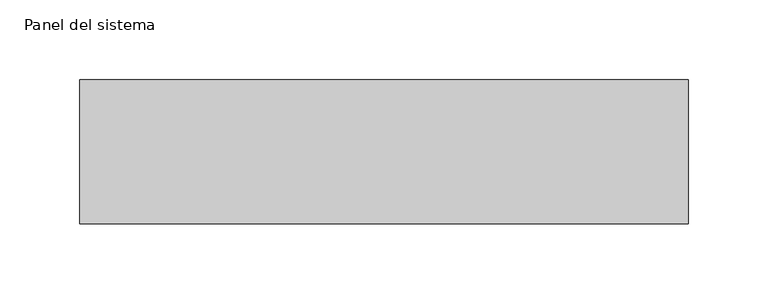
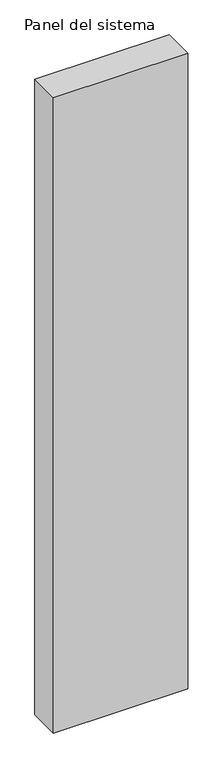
"""IFC4 building model written with IfcOpenShell, lengths in millimetres: plate geometry, Panel del sistema : HIANSA - CHAPA PERFILADA CUBIERTA - BANDEJA 90.380 Vert."""

from ifc_helpers import new_model, si_unit, origin, origin_with_axes, place, context, project, spatial, polyline, outline, extrude, source, transform, mapped, element, save


def panel_del_sistema_43061807(model_context):
    return source(origin(), model_context, "Body", "SweptSolid", [
        extrude(outline(polyline([(190.0000002, -90.0), (-190.0000002, -90.0), (-190.0000002, 0.0), (190.0000002, 0.0), (190.0000002, -90.0)])), origin_with_axes(), (0.0, 0.0, 1.0), 1900.0),
    ])


if __name__ == "__main__":
    model = new_model("IFC4")
    model_context = context("Model", 3, world=origin())
    ifc_project = project(units=[si_unit("LENGTHUNIT", "METRE", prefix="MILLI")], contexts=[model_context])
    site = spatial("IfcSite", under=ifc_project)
    building = spatial("IfcBuilding", under=site)
    placement = place(None, origin())
    panel_del_sistema_shape = panel_del_sistema_43061807(model_context)
    element("IfcPlate", 1, ObjectType="Panel del sistema : HIANSA - CHAPA PERFILADA CUBIERTA - BANDEJA 90.380 Vert", at=placement, inside=building, context=model_context, shape_type="MappedRepresentation", body=[
        mapped(panel_del_sistema_shape, transform((0.0, 0.0, 0.0), x_axis=(1.0, 0.0, 0.0), y_axis=(0.0, 1.0, 0.0), z_axis=(0.0, 0.0, 1.0))),
    ])
    save(model, "model.ifc")
